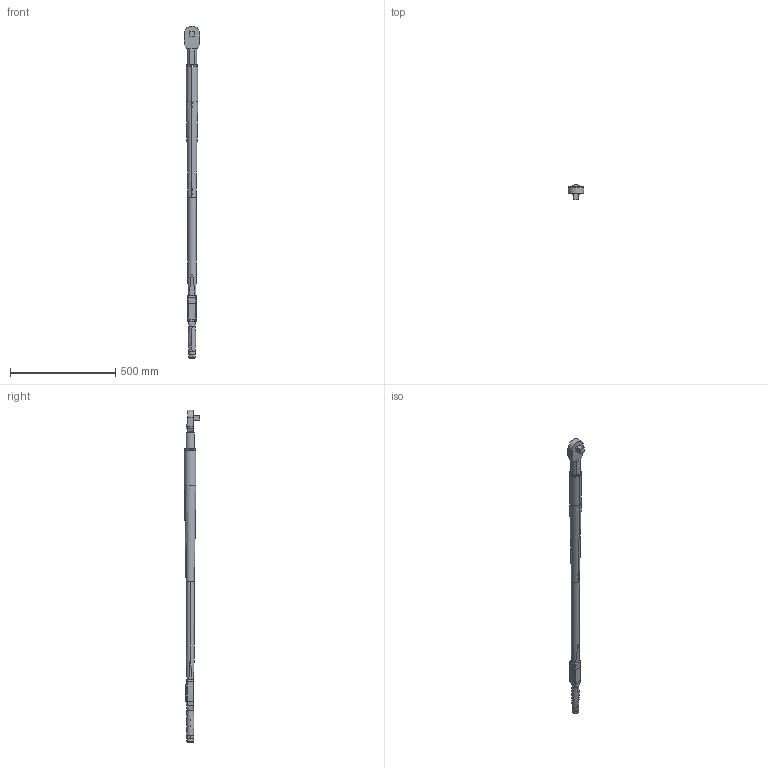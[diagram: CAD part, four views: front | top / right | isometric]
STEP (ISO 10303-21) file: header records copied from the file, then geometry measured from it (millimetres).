
FILE_DESCRIPTION((''),'2;1');
FILE_NAME('6159352160_DIM','2021-06-28T09:08:27',('S00000450'),(''),'CREO PARAMETRIC BY PTC INC, 2021072','CREO PARAMETRIC BY PTC INC, 2021072','');
FILE_SCHEMA(('AP242_MANAGED_MODEL_BASED_3D_ENGINEERING_MIM_LF { 1 0 10303 442 1 1 4 }'));
Length unit declared in the file: millimetre
Products named in the file (1): 6159352160_DIM
Bounding box: 74 x 72.5 x 1579 mm (x, y, z)
Surface area: 237953.3 mm2 (no closed solid volume)
Topology: 0 solids, 20 shells, 165 faces, 599 edges, 432 vertices
Faces by surface type: plane 58, cylinder 46, bspline 40, cone 13, extrusion 8
Entity records: 11903 total; most frequent: CARTESIAN_POINT 6608, ORIENTED_EDGE 896, DIRECTION 771, EDGE_CURVE 598, VERTEX_POINT 432, AXIS2_PLACEMENT_3D 281, B_SPLINE_CURVE_WITH_KNOTS 241, VECTOR 209
